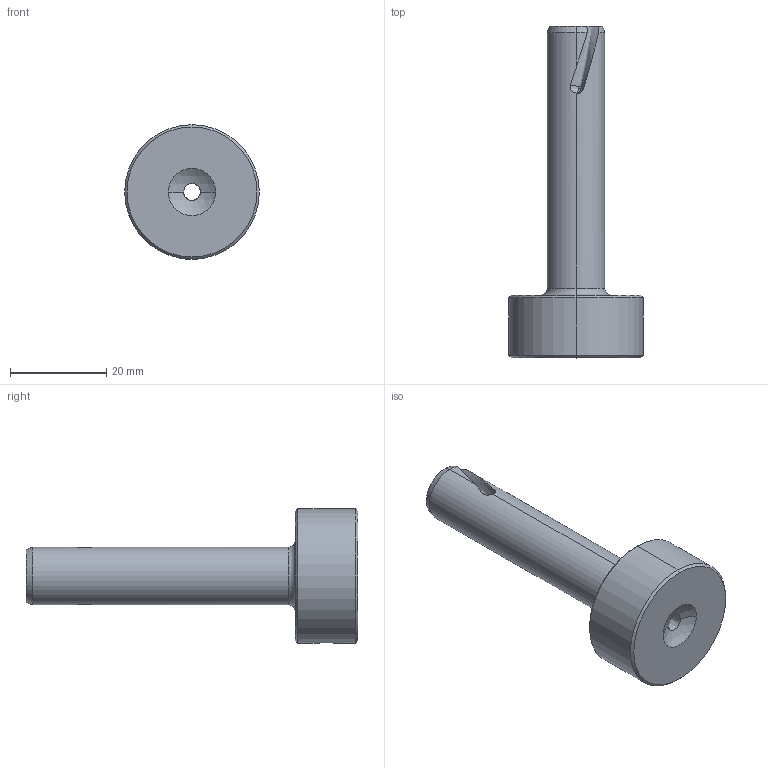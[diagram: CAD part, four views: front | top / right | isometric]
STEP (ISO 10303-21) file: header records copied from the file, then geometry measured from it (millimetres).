
FILE_DESCRIPTION (( 'STEP AP203' ), '1' );
FILE_NAME ('SB12.56.2.STEP', '2019-04-12T15:20:55', ( '' ), ( '' ), 'SwSTEP 2.0', 'SolidWorks 2018', '' );
FILE_SCHEMA (( 'CONFIG_CONTROL_DESIGN' ));
Length unit declared in the file: millimetre
Products named in the file (1): SB12.56.2
Bounding box: 28 x 69 x 28 mm (x, y, z)
Volume: 12956.2 mm3; surface area: 5510 mm2
Topology: 1 solids, 1 shells, 49 faces, 133 edges, 80 vertices
Faces by surface type: bspline 18, cone 12, cylinder 10, plane 5, sphere 2, torus 2
Entity records: 3878 total; most frequent: CARTESIAN_POINT 2785, ORIENTED_EDGE 250, DIRECTION 149, EDGE_CURVE 125, VERTEX_POINT 80, B_SPLINE_CURVE_WITH_KNOTS 72, AXIS2_PLACEMENT_3D 64, EDGE_LOOP 53
